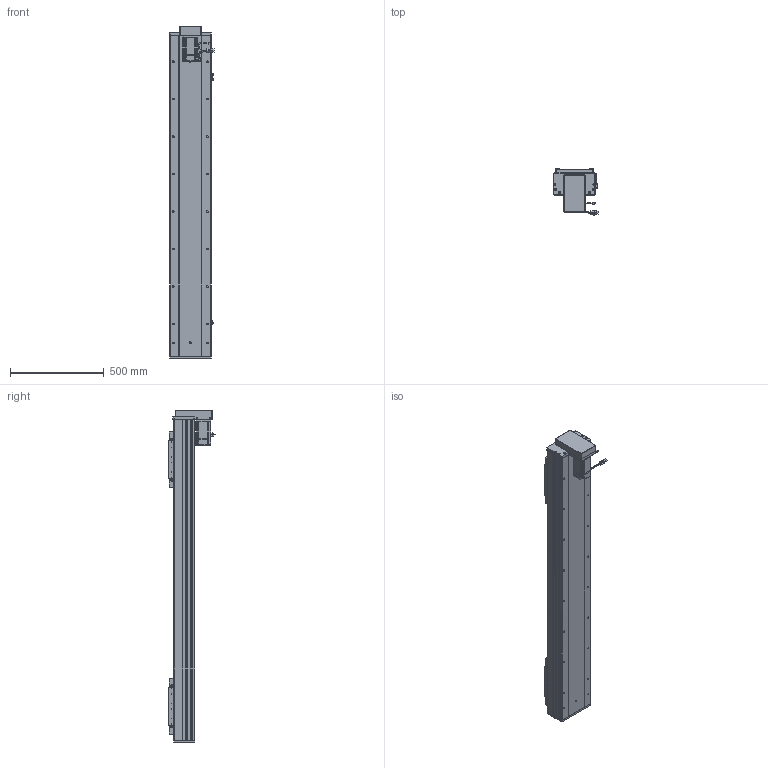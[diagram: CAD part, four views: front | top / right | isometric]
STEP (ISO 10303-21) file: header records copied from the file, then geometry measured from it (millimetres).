
FILE_DESCRIPTION (( 'STEP AP203' ), '1' );
FILE_NAME ('RY220F-L2525-300-BK.SLDASM_1300.step', '2022-07-04T01:21:07', ( '' ), ( '' ), 'SwSTEP 2.0', 'SolidWorks 2016', '' );
FILE_SCHEMA (( 'CONFIG_CONTROL_DESIGN' ));
Length unit declared in the file: millimetre
Products named in the file (15): RY220F-L2525-300-BK.SLDASM_1300; 怢湛750W_ECMA-CX0807ES; 滅袉蝶18-24; RY220F-祥凄詩湍-蛌殏-300_1300; RY220F蛌殏菁釱-300_1300; RY220F-滅鳥奻裔; RY220F-蛌殏奻裔啣-300_1300; RY220狟殏萇儂欶; 覜茼ん672; RY220F-672覜茼んえ; RY220狟殏萇儂假蚾啣; 侐源滅袉蝶; RY220F綴裔啣; RY220F-詩湍揤踡輸; RY220F臏賑釱25-32佪裝
Assembly tree (24 placements, depth 2):
  RY220F-L2525-300-BK.SLDASM_1300
    RY220F蛌殏菁釱-300_1300
    RY220F-蛌殏奻裔啣-300_1300  x2
    怢湛750W_ECMA-CX0807ES
    RY220F臏賑釱25-32佪裝  x2
    RY220F-滅鳥奻裔  x2
    滅袉蝶18-24  x3
    RY220F綴裔啣
    RY220F-祥凄詩湍-蛌殏-300_1300
    RY220F-詩湍揤踡輸  x2
    覜茼ん672  x3
    RY220F-672覜茼んえ  x2
    侐源滅袉蝶  x2
    RY220狟殏萇儂假蚾啣
    RY220狟殏萇儂欶
Bounding box: 237.27 x 247.24 x 1771 mm (x, y, z)
Volume: 16403396 mm3; surface area: 4263393.8 mm2
Topology: 25 solids, 25 shells, 2795 faces, 7594 edges, 4693 vertices
Faces by surface type: cylinder 1246, plane 1062, cone 416, bspline 45, sphere 16, torus 10
Entity records: 69373 total; most frequent: CARTESIAN_POINT 18775, ORIENTED_EDGE 10226, DIRECTION 9941, EDGE_CURVE 5113, AXIS2_PLACEMENT_3D 3526, VERTEX_POINT 3309, VECTOR 2889, LINE 2889
